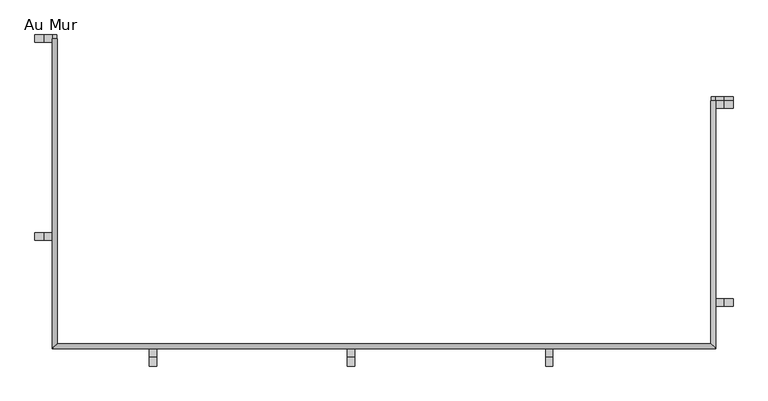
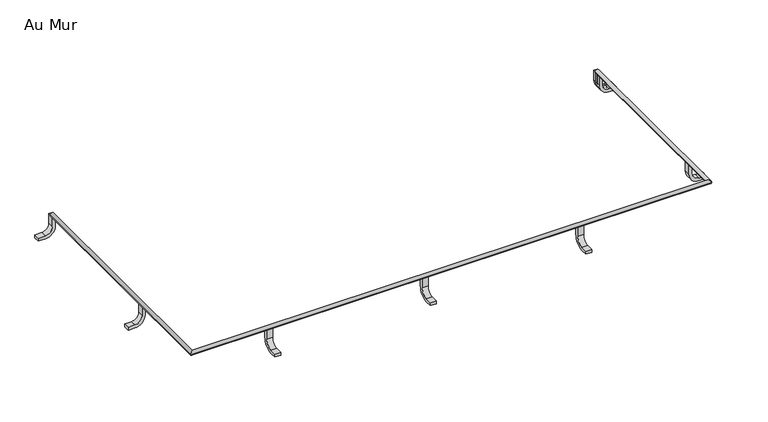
"""IFC4 building model written with IfcOpenShell, lengths in millimetres: railing geometry, Au Mur."""

import ifcopenshell
import ifcopenshell.guid

model = None  # the IFC model being written
_history = None  # IfcOwnerHistory: only IFC2X3 demands one
_inside = {}  # id of a spatial element -> (the spatial element, [elements in it])
_under = {}  # id of a project, library or spatial element -> (it, [spatial elements below it])
_declared = {}  # id of a project -> (the project, [libraries it declares])
_typed = {}  # id of a type object -> (the type object, [elements of that type])
_made_of = {}  # id of a material, layer set ... -> (it, [elements and type objects made of it])


def new_model(schema):
    """Start an empty IFC model of exactly this schema.

    Asked for "IFC4X3", IfcOpenShell would pick the latest addendum, in which some entities
    have other attributes; the version numbers below select the first issue.
    IFC2X3 requires an IfcOwnerHistory on every rooted entity: one is made here for all.
    """
    global model, _history
    if schema == "IFC4X3":
        model = ifcopenshell.file(schema_version=(4, 3, 0, 0))
    else:
        model = ifcopenshell.file(schema=schema)
    _inside.clear()
    _under.clear()
    _declared.clear()
    _typed.clear()
    _made_of.clear()
    _history = None
    if model.schema == "IFC2X3":
        org = make("IfcOrganization", Name="unknown")
        user = make(
            "IfcPersonAndOrganization",
            ThePerson=make("IfcPerson", FamilyName="unknown"),
            TheOrganization=org,
        )
        app = make(
            "IfcApplication",
            ApplicationDeveloper=org,
            Version="unknown",
            ApplicationFullName="unknown",
            ApplicationIdentifier="unknown",
        )
        _history = make(
            "IfcOwnerHistory",
            OwningUser=user,
            OwningApplication=app,
            ChangeAction="ADDED",
            CreationDate=0,
        )
    return model


def make(cls, **values):
    """One entity of the class cls with the attributes given. An attribute that is None is left unset."""
    return model.create_entity(
        cls, **{name: value for name, value in values.items() if value is not None}
    )


def rooted(cls, **values):
    """An entity with a GlobalId (a new one), such as an element, a storey or a relation."""
    return make(cls, GlobalId=ifcopenshell.guid.new(), OwnerHistory=_history, **values)


def si_unit(unit_type, name, prefix=None):
    """IfcSIUnit, for example si_unit("LENGTHUNIT", "METRE", prefix="MILLI")."""
    return make("IfcSIUnit", UnitType=unit_type, Prefix=prefix, Name=name)


def assignment(units):
    """IfcUnitAssignment: the units of a project."""
    return None if units is None else make("IfcUnitAssignment", Units=units)


def point(xyz):
    """IfcCartesianPoint."""
    return None if xyz is None else make("IfcCartesianPoint", Coordinates=xyz)


def direction(xyz):
    """IfcDirection."""
    return None if xyz is None else make("IfcDirection", DirectionRatios=xyz)


def frame(location, z_axis=None, x_axis=None):
    """IfcAxis2Placement3D, a coordinate frame: its origin and axes. An axis left out is left unset."""
    return make(
        "IfcAxis2Placement3D",
        Location=point(location),
        Axis=direction(z_axis),
        RefDirection=direction(x_axis),
    )


def frame_2d(location, x_axis=None):
    """IfcAxis2Placement2D, a coordinate frame in the plane: its origin and x axis."""
    return make(
        "IfcAxis2Placement2D", Location=point(location), RefDirection=direction(x_axis)
    )


def origin():
    """The frame at (0, 0, 0) with its axes left unset."""
    return frame((0.0, 0.0, 0.0))


def place(relative_to, where):
    """IfcLocalPlacement: puts the frame where relative to a parent placement (None: the world)."""
    return make(
        "IfcLocalPlacement", PlacementRelTo=relative_to, RelativePlacement=where
    )


def context(
    kind, dimensions, precision=None, world=None, true_north=None, identifier=None
):
    """IfcGeometricRepresentationContext, for example the 3D "Model" context."""
    return make(
        "IfcGeometricRepresentationContext",
        ContextIdentifier=identifier,
        ContextType=kind,
        CoordinateSpaceDimension=dimensions,
        Precision=precision,
        WorldCoordinateSystem=world,
        TrueNorth=true_north,
    )


def project(units=None, contexts=None):
    """IfcProject with its units and contexts."""
    return rooted(
        "IfcProject",
        Name="project",
        RepresentationContexts=contexts,
        UnitsInContext=assignment(units),
    )


def spatial(cls, under=None, at=None, **own):
    """A site, building, storey or space (cls), placed at a placement, below another one or the project."""
    s = rooted(cls, ObjectPlacement=at, **own)
    if under is not None:
        _under.setdefault(under.id(), (under, []))[1].append(s)
    return s


def polyline(points):
    """IfcPolyline through the points."""
    return make("IfcPolyline", Points=[point(p) for p in points])


def circle_curve(where, radius):
    """IfcCircle in the frame where."""
    return make("IfcCircle", Position=where, Radius=radius)


def ellipse_curve(where, semi_axis1, semi_axis2):
    """IfcEllipse in the frame where."""
    return make(
        "IfcEllipse", Position=where, SemiAxis1=semi_axis1, SemiAxis2=semi_axis2
    )


def trimmed(basis, trim1, trim2, sense, master):
    """IfcTrimmedCurve: the piece of a basis curve between two trims."""
    return make(
        "IfcTrimmedCurve",
        BasisCurve=basis,
        Trim1=trim1,
        Trim2=trim2,
        SenseAgreement=sense,
        MasterRepresentation=master,
    )


def segment(curve, same_sense, transition):
    """IfcCompositeCurveSegment."""
    return make(
        "IfcCompositeCurveSegment",
        Transition=transition,
        SameSense=same_sense,
        ParentCurve=curve,
    )


def composite_curve(segments, self_intersect=None):
    """IfcCompositeCurve: segments joined end to end."""
    return make("IfcCompositeCurve", Segments=segments, SelfIntersect=self_intersect)


def outline(outer, holes=None, kind="AREA"):
    """IfcArbitraryClosedProfileDef: a profile drawn as a closed curve; with holes, ...WithVoids."""
    if holes is None:
        return make("IfcArbitraryClosedProfileDef", ProfileType=kind, OuterCurve=outer)
    return make(
        "IfcArbitraryProfileDefWithVoids",
        ProfileType=kind,
        OuterCurve=outer,
        InnerCurves=holes,
    )


def extrude(swept, where, along, depth):
    """IfcExtrudedAreaSolid: the profile swept, set in the frame where, extruded along a direction by depth."""
    return make(
        "IfcExtrudedAreaSolid",
        SweptArea=swept,
        Position=where,
        ExtrudedDirection=direction(along),
        Depth=depth,
    )


def shape(context_of_items, identifier, shape_type, items):
    """IfcShapeRepresentation: the items that make up one representation, for example the "Body"."""
    return make(
        "IfcShapeRepresentation",
        ContextOfItems=context_of_items,
        RepresentationIdentifier=identifier,
        RepresentationType=shape_type,
        Items=items,
    )


def source(mapping_origin, context_of_items, identifier, shape_type, items):
    """IfcRepresentationMap: a shape defined once, which mapped items show again and again."""
    return make(
        "IfcRepresentationMap",
        MappingOrigin=mapping_origin,
        MappedRepresentation=shape(context_of_items, identifier, shape_type, items),
    )


def transform(
    local_origin,
    x_axis=None,
    y_axis=None,
    z_axis=None,
    scale=None,
    scale2=None,
    scale3=None,
    uniform=True,
):
    """IfcCartesianTransformationOperator3D, or its non-uniform kind. x_axis, y_axis, z_axis: its Axis1, 2, 3."""
    if uniform:
        return make(
            "IfcCartesianTransformationOperator3D",
            Axis1=direction(x_axis),
            Axis2=direction(y_axis),
            LocalOrigin=point(local_origin),
            Scale=scale,
            Axis3=direction(z_axis),
        )
    return make(
        "IfcCartesianTransformationOperator3DnonUniform",
        Axis1=direction(x_axis),
        Axis2=direction(y_axis),
        LocalOrigin=point(local_origin),
        Scale=scale,
        Axis3=direction(z_axis),
        Scale2=scale2,
        Scale3=scale3,
    )


def mapped(mapping_source, mapping_target):
    """IfcMappedItem: shows the shape of a source again, moved by a transform."""
    return make(
        "IfcMappedItem", MappingSource=mapping_source, MappingTarget=mapping_target
    )


def made_of(thing, what):
    """Note that an element or type object is made of a material, layer set ...; save() writes the relation."""
    if what is not None:
        _made_of.setdefault(what.id(), (what, []))[1].append(thing)
    return thing


def element(
    cls,
    number,
    at=None,
    inside=None,
    cuts=None,
    type_object=None,
    material=None,
    context=None,
    identifier="Body",
    shape_type=None,
    held_by="IfcProductDefinitionShape",
    body=None,
    shapes=None,
    **own,
):
    """One element of the class cls, such as IfcWall. Its Tag is "e" and its number.

    at: its placement. inside: the storey or other place that contains it. cuts: it is an
    opening in that element (IfcRelVoidsElement). A single representation is given by context,
    identifier, shape_type and body (its items); several are given by shapes. held_by: the class
    of the entity that holds the representations. save() writes the other relations.
    """
    e = rooted(cls, Tag="e%d" % number, ObjectPlacement=at, **own)
    if body is not None:
        shapes = [shape(context, identifier, shape_type, body)]
    if shapes is not None:
        e.Representation = make(held_by, Representations=shapes)
    if inside is not None:
        _inside.setdefault(inside.id(), (inside, []))[1].append(e)
    if cuts is not None:
        rooted(
            "IfcRelVoidsElement", RelatingBuildingElement=cuts, RelatedOpeningElement=e
        )
    if type_object is not None:
        _typed.setdefault(type_object.id(), (type_object, []))[1].append(e)
    return made_of(e, material)


def aggregate(whole, parts):
    """IfcRelAggregates: a whole, such as a stair, and the parts it consists of."""
    return rooted("IfcRelAggregates", RelatingObject=whole, RelatedObjects=parts)


def save(model, path):
    """Write the relations noted so far, then the file.

    IfcRelAggregates (storeys below a building ...), IfcRelContainedInSpatialStructure (elements
    in a storey), IfcRelDefinesByType, IfcRelAssociatesMaterial and IfcRelDeclares: one each for
    every whole, place, type object, material and project.
    """
    for whole, parts in _under.values():
        aggregate(whole, parts)
    for where, things in _inside.values():
        rooted(
            "IfcRelContainedInSpatialStructure",
            RelatedElements=things,
            RelatingStructure=where,
        )
    for kind, things in _typed.values():
        rooted("IfcRelDefinesByType", RelatedObjects=things, RelatingType=kind)
    for what, things in _made_of.values():
        rooted("IfcRelAssociatesMaterial", RelatedObjects=things, RelatingMaterial=what)
    for by, libraries in _declared.values():
        rooted("IfcRelDeclares", RelatingContext=by, RelatedDefinitions=libraries)
    model.write(path)


def plane_surface(at):
    """IfcPlane: the flat surface through the origin of the frame at, square to its z axis."""
    return make("IfcPlane", Position=at)


def cylinder_surface(at, radius):
    """IfcCylindricalSurface: all points at the distance radius from the z axis of the frame at."""
    return make("IfcCylindricalSurface", Position=at, Radius=radius)


def advanced_brep(points, edges, surfaces, faces):
    """IfcAdvancedBrep: a solid bounded by faces that lie on surfaces and meet in shared edges.

    An edge is (start, end): straight between two places in points (the first is 0);
    or (start, end, curve); or (start, end, curve, False) where it runs against its curve.
    A face is (place in surfaces, loops), or (place, loops, False) where it looks against
    its surface's normal. A loop lists edges by number (the first is 1), with a minus sign
    where the edge is run from its end to its start. The first loop is the outer one.
    """
    corners = [point(p) for p in points]
    vertices = [make("IfcVertexPoint", VertexGeometry=c) for c in corners]
    made = []
    for start, end, *more in edges:
        made.append(
            make(
                "IfcEdgeCurve",
                EdgeStart=vertices[start],
                EdgeEnd=vertices[end],
                EdgeGeometry=more[0] if more else make("IfcPolyline", Points=[corners[start], corners[end]]),
                SameSense=more[1] if len(more) > 1 else True,
            )
        )
    hull = []
    for where, loops, *sense in faces:
        bounds = []
        for j, loop in enumerate(loops):
            ring = [make("IfcOrientedEdge", EdgeElement=made[abs(k) - 1], Orientation=k > 0) for k in loop]
            bounds.append(
                make(
                    "IfcFaceOuterBound" if j == 0 else "IfcFaceBound",
                    Bound=make("IfcEdgeLoop", EdgeList=ring),
                    Orientation=True,
                )
            )
        hull.append(make("IfcAdvancedFace", Bounds=bounds, FaceSurface=surfaces[where], SameSense=sense[0] if sense else True))
    return make("IfcAdvancedBrep", Outer=make("IfcClosedShell", CfsFaces=hull))


def au_mur_6d2c2d8e(model_context):
    return source(origin(), model_context, "Body", "SolidModel", [
        advanced_brep(
        [(9158.6466393, 1292.0685723, 6220.0), (9138.6466393, 1292.0685723, 6220.0), (9158.6466393, 59.524191, 6220.0), (9138.6466393, 39.524191, 6220.0), (11798.8466393, 59.524191, 6220.0), (11818.8466393, 39.524191, 6220.0), (11798.8466393, 1042.0685723, 6220.0), (11818.8466393, 1042.0685723, 6220.0)],
        [
            (0, 1, circle_curve(frame((9148.6466393, 1292.0685723, 6220.0), z_axis=(0.0, 1.0, 0.0), x_axis=(-1.0, 0.0, 0.0)), 10.0)),
            (1, 0, circle_curve(frame((9148.6466393, 1292.0685723, 6220.0), z_axis=(0.0, 1.0, 0.0), x_axis=(-1.0, 0.0, 0.0)), 10.0)),
            (0, 2),
            (2, 3, ellipse_curve(frame((9148.6466393, 49.524191, 6220.0), z_axis=(-0.7071067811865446, 0.7071067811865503, 0.0), x_axis=(0.7071067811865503, 0.7071067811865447, 0.0)), 14.1421356, 10.0)),
            (3, 1),
            (3, 2, ellipse_curve(frame((9148.6466393, 49.524191, 6220.0), z_axis=(-0.7071067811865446, 0.7071067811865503, 0.0), x_axis=(0.7071067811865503, 0.7071067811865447, 0.0)), 14.1421356, 10.0)),
            (2, 4),
            (4, 5, ellipse_curve(frame((11808.8466393, 49.524191, 6220.0), z_axis=(-0.7071067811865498, -0.7071067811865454, 0.0), x_axis=(-0.7071067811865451, 0.7071067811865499, 0.0)), 14.1421356, 10.0)),
            (5, 3),
            (5, 4, ellipse_curve(frame((11808.8466393, 49.524191, 6220.0), z_axis=(-0.7071067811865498, -0.7071067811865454, 0.0), x_axis=(-0.7071067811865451, 0.7071067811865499, 0.0)), 14.1421356, 10.0)),
            (6, 7, circle_curve(frame((11808.8466393, 1042.0685723, 6220.0), z_axis=(0.0, 1.0, 0.0), x_axis=(1.0, 0.0, 0.0)), 10.0)),
            (7, 6, circle_curve(frame((11808.8466393, 1042.0685723, 6220.0), z_axis=(0.0, 1.0, 0.0), x_axis=(1.0, 0.0, 0.0)), 10.0)),
            (4, 6),
            (7, 5),
        ],
        [
            plane_surface(frame((9148.6466393, 1292.0685723, 6220.0), z_axis=(0.0, 1.0, 0.0), x_axis=(0.0, 0.0, -1.0))),
            cylinder_surface(frame((9148.6466393, 1292.0685723, 6220.0), z_axis=(0.0, 1.0, 0.0), x_axis=(-1.0, 0.0, 0.0)), 10.0),
            cylinder_surface(frame((9148.6466393, 49.524191, 6220.0), z_axis=(-1.0, 0.0, 0.0), x_axis=(0.0, -1.0, 0.0)), 10.0),
            plane_surface(frame((11808.8466393, 1042.0685723, 6220.0), z_axis=(0.0, 1.0, 0.0), x_axis=(0.0, 0.0, 1.0))),
            cylinder_surface(frame((11808.8466393, 49.524191, 6220.0), z_axis=(0.0, -1.0, 0.0), x_axis=(1.0, 0.0, 0.0)), 10.0),
        ],
        [
            (0, [[1, 2]]),
            (1, [[-1, 3, 4, 5]]),
            (1, [[-2, -5, 6, -3]]),
            (2, [[-4, 7, 8, 9]]),
            (2, [[-6, -9, 10, -7]]),
            (3, [[11, 12]]),
            (4, [[-8, 13, -12, 14]]),
            (4, [[-10, -14, -11, -13]]),
        ],
    ),
        extrude(outline(composite_curve([segment(polyline([(6112.0, 11888.8466393), (6128.0, 11888.8466393), (6128.0, 11853.8466393)]), True, "CONTINUOUS"), segment(trimmed(circle_curve(frame_2d((6165.0, 11853.8466393)), 37.0), [point((6128.0, 11853.8466393))], [point((6165.0, 11816.8466393))], True, "CARTESIAN"), True, "CONTINUOUS"), segment(polyline([(6165.0, 11816.8466393), (6220.0, 11816.8466393), (6220.0, 11800.8466393), (6165.0, 11800.8466393)]), True, "CONTINUOUS"), segment(trimmed(circle_curve(frame_2d((6165.0, 11853.8466393)), 53.0), [point((6165.0, 11800.8466393))], [point((6112.0, 11853.8466393))], False, "CARTESIAN"), True, "CONTINUOUS"), segment(polyline([(6112.0, 11853.8466393), (6112.0, 11888.8466393)]), True, "CONTINUOUS")], self_intersect=False)), frame((0.0, 1011.7798097, 0.0), z_axis=(0.0, 1.0, 0.0), x_axis=(0.0, 0.0, 1.0)), (0.0, 0.0, 1.0), 30.0),
        extrude(outline(composite_curve([segment(polyline([(6112.0, 11888.8466393), (6128.0, 11888.8466393), (6128.0, 11853.8466393)]), True, "CONTINUOUS"), segment(trimmed(circle_curve(frame_2d((6165.0, 11853.8466393)), 37.0), [point((6128.0, 11853.8466393))], [point((6165.0, 11816.8466393))], True, "CARTESIAN"), True, "CONTINUOUS"), segment(polyline([(6165.0, 11816.8466393), (6220.0, 11816.8466393), (6220.0, 11800.8466393), (6165.0, 11800.8466393)]), True, "CONTINUOUS"), segment(trimmed(circle_curve(frame_2d((6165.0, 11853.8466393)), 53.0), [point((6165.0, 11800.8466393))], [point((6112.0, 11853.8466393))], False, "CARTESIAN"), True, "CONTINUOUS"), segment(polyline([(6112.0, 11853.8466393), (6112.0, 11888.8466393)]), True, "CONTINUOUS")], self_intersect=False)), frame((0.0, 211.7798097, 0.0), z_axis=(0.0, 1.0, 0.0), x_axis=(0.0, 0.0, 1.0)), (0.0, 0.0, 1.0), 30.0),
        extrude(outline(composite_curve([segment(polyline([(-30.475809, 6112.0), (-30.475809, 6128.0), (4.524191, 6128.0)]), True, "CONTINUOUS"), segment(trimmed(circle_curve(frame_2d((4.524191, 6165.0)), 37.0), [point((4.524191, 6128.0))], [point((41.524191, 6165.0))], True, "CARTESIAN"), True, "CONTINUOUS"), segment(polyline([(41.524191, 6165.0), (41.524191, 6220.0), (57.524191, 6220.0), (57.524191, 6165.0)]), True, "CONTINUOUS"), segment(trimmed(circle_curve(frame_2d((4.524191, 6165.0)), 53.0), [point((57.524191, 6165.0))], [point((4.524191, 6112.0))], False, "CARTESIAN"), True, "CONTINUOUS"), segment(polyline([(4.524191, 6112.0), (-30.475809, 6112.0)]), True, "CONTINUOUS")], self_intersect=False)), frame((11131.102258, 0.0, 0.0), z_axis=(1.0, 0.0, 0.0), x_axis=(0.0, 1.0, 0.0)), (0.0, 0.0, 1.0), 30.0),
        extrude(outline(composite_curve([segment(polyline([(-30.475809, 6112.0), (-30.475809, 6128.0), (4.524191, 6128.0)]), True, "CONTINUOUS"), segment(trimmed(circle_curve(frame_2d((4.524191, 6165.0)), 37.0), [point((4.524191, 6128.0))], [point((41.524191, 6165.0))], True, "CARTESIAN"), True, "CONTINUOUS"), segment(polyline([(41.524191, 6165.0), (41.524191, 6220.0), (57.524191, 6220.0), (57.524191, 6165.0)]), True, "CONTINUOUS"), segment(trimmed(circle_curve(frame_2d((4.524191, 6165.0)), 53.0), [point((57.524191, 6165.0))], [point((4.524191, 6112.0))], False, "CARTESIAN"), True, "CONTINUOUS"), segment(polyline([(4.524191, 6112.0), (-30.475809, 6112.0)]), True, "CONTINUOUS")], self_intersect=False)), frame((10331.102258, 0.0, 0.0), z_axis=(1.0, 0.0, 0.0), x_axis=(0.0, 1.0, 0.0)), (0.0, 0.0, 1.0), 30.0),
        extrude(outline(composite_curve([segment(polyline([(-30.475809, 6112.0), (-30.475809, 6128.0), (4.524191, 6128.0)]), True, "CONTINUOUS"), segment(trimmed(circle_curve(frame_2d((4.524191, 6165.0)), 37.0), [point((4.524191, 6128.0))], [point((41.524191, 6165.0))], True, "CARTESIAN"), True, "CONTINUOUS"), segment(polyline([(41.524191, 6165.0), (41.524191, 6220.0), (57.524191, 6220.0), (57.524191, 6165.0)]), True, "CONTINUOUS"), segment(trimmed(circle_curve(frame_2d((4.524191, 6165.0)), 53.0), [point((57.524191, 6165.0))], [point((4.524191, 6112.0))], False, "CARTESIAN"), True, "CONTINUOUS"), segment(polyline([(4.524191, 6112.0), (-30.475809, 6112.0)]), True, "CONTINUOUS")], self_intersect=False)), frame((9531.102258, 0.0, 0.0), z_axis=(1.0, 0.0, 0.0), x_axis=(0.0, 1.0, 0.0)), (0.0, 0.0, 1.0), 30.0),
        extrude(outline(composite_curve([segment(polyline([(6128.0, 9068.6466393), (6112.0, 9068.6466393), (6112.0, 9103.6466393)]), True, "CONTINUOUS"), segment(trimmed(circle_curve(frame_2d((6165.0, 9103.6466393)), 53.0), [point((6112.0, 9103.6466393))], [point((6165.0, 9156.6466393))], False, "CARTESIAN"), True, "CONTINUOUS"), segment(polyline([(6165.0, 9156.6466393), (6220.0, 9156.6466393), (6220.0, 9140.6466393), (6165.0, 9140.6466393)]), True, "CONTINUOUS"), segment(trimmed(circle_curve(frame_2d((6165.0, 9103.6466393)), 37.0), [point((6165.0, 9140.6466393))], [point((6128.0, 9103.6466393))], True, "CARTESIAN"), True, "CONTINUOUS"), segment(polyline([(6128.0, 9103.6466393), (6128.0, 9068.6466393)]), True, "CONTINUOUS")], self_intersect=False)), frame((0.0, 477.0685723, 0.0), z_axis=(0.0, 1.0, 0.0), x_axis=(0.0, 0.0, 1.0)), (0.0, 0.0, 1.0), 30.0),
        extrude(outline(composite_curve([segment(polyline([(6112.0, 11888.8466393), (6128.0, 11888.8466393), (6128.0, 11853.8466393)]), True, "CONTINUOUS"), segment(trimmed(circle_curve(frame_2d((6165.0, 11853.8466393)), 37.0), [point((6128.0, 11853.8466393))], [point((6165.0, 11816.8466393))], True, "CARTESIAN"), True, "CONTINUOUS"), segment(polyline([(6165.0, 11816.8466393), (6220.0, 11816.8466393), (6220.0, 11800.8466393), (6165.0, 11800.8466393)]), True, "CONTINUOUS"), segment(trimmed(circle_curve(frame_2d((6165.0, 11853.8466393)), 53.0), [point((6165.0, 11800.8466393))], [point((6112.0, 11853.8466393))], False, "CARTESIAN"), True, "CONTINUOUS"), segment(polyline([(6112.0, 11853.8466393), (6112.0, 11888.8466393)]), True, "CONTINUOUS")], self_intersect=False)), frame((0.0, 1027.0685723, 0.0), z_axis=(0.0, 1.0, 0.0), x_axis=(0.0, 0.0, 1.0)), (0.0, 0.0, 1.0), 30.0),
        extrude(outline(composite_curve([segment(polyline([(6128.0, 9068.6466393), (6112.0, 9068.6466393), (6112.0, 9103.6466393)]), True, "CONTINUOUS"), segment(trimmed(circle_curve(frame_2d((6165.0, 9103.6466393)), 53.0), [point((6112.0, 9103.6466393))], [point((6165.0, 9156.6466393))], False, "CARTESIAN"), True, "CONTINUOUS"), segment(polyline([(6165.0, 9156.6466393), (6220.0, 9156.6466393), (6220.0, 9140.6466393), (6165.0, 9140.6466393)]), True, "CONTINUOUS"), segment(trimmed(circle_curve(frame_2d((6165.0, 9103.6466393)), 37.0), [point((6165.0, 9140.6466393))], [point((6128.0, 9103.6466393))], True, "CARTESIAN"), True, "CONTINUOUS"), segment(polyline([(6128.0, 9103.6466393), (6128.0, 9068.6466393)]), True, "CONTINUOUS")], self_intersect=False)), frame((0.0, 1277.0685723, 0.0), z_axis=(0.0, 1.0, 0.0), x_axis=(0.0, 0.0, 1.0)), (0.0, 0.0, 1.0), 30.0),
    ])


if __name__ == "__main__":
    model = new_model("IFC4")
    model_context = context("Model", 3, world=origin())
    ifc_project = project(units=[si_unit("LENGTHUNIT", "METRE", prefix="MILLI")], contexts=[model_context])
    site = spatial("IfcSite", under=ifc_project)
    building = spatial("IfcBuilding", under=site)
    placement = place(None, origin())
    au_mur_shape = au_mur_6d2c2d8e(model_context)
    element("IfcRailing", 1, ObjectType="Au Mur", at=placement, inside=building, context=model_context, shape_type="MappedRepresentation", body=[
        mapped(au_mur_shape, transform((0.0, 0.0, 0.0), x_axis=(1.0, 0.0, 0.0), y_axis=(0.0, 1.0, 0.0), z_axis=(0.0, 0.0, 1.0))),
    ])
    save(model, "model.ifc")
